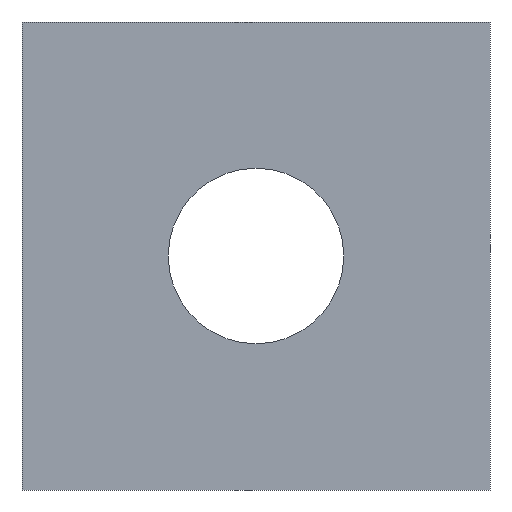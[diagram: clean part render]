
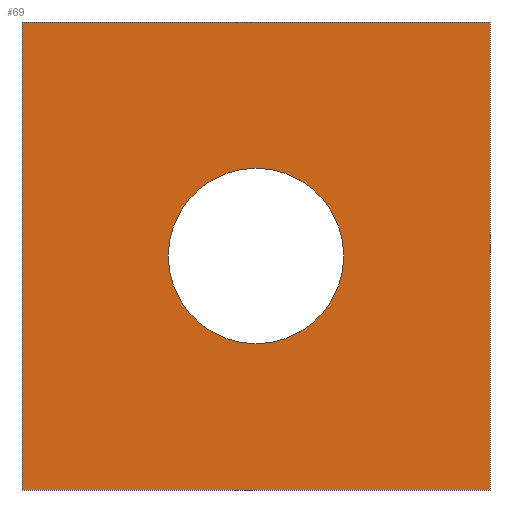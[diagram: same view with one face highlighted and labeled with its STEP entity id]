
A CAD part, front view. The second image highlights one B-rep face of the part: STEP entity #69.
In plain terms, the highlighted planar face has unit normal (0, -1, 0).
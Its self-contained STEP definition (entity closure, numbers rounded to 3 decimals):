
#2 = AXIS2_PLACEMENT_3D ( 'NONE', #265, #155, #267 ) ;
#7 = AXIS2_PLACEMENT_3D ( 'NONE', #31, #93, #182 ) ;
#12 = CARTESIAN_POINT ( 'NONE',  ( 122., 0., 122. ) ) ;
#16 = CARTESIAN_POINT ( 'NONE',  ( 122., 0., 122. ) ) ;
#18 = LINE ( 'NONE', #60, #100 ) ;
#27 = EDGE_CURVE ( 'NONE', #63, #225, #189, .T. ) ;
#29 = LINE ( 'NONE', #16, #87 ) ;
#31 = CARTESIAN_POINT ( 'NONE',  ( 0., 0., 0. ) ) ;
#39 = VERTEX_POINT ( 'NONE', #227 ) ;
#45 = FACE_BOUND ( 'NONE', #219, .T. ) ;
#60 = CARTESIAN_POINT ( 'NONE',  ( -122., 0., 122. ) ) ;
#61 = DIRECTION ( 'NONE',  ( 0., 0., 1. ) ) ;
#63 = VERTEX_POINT ( 'NONE', #202 ) ;
#66 = CIRCLE ( 'NONE', #246, 45.75 ) ;
#69 = ADVANCED_FACE ( 'NONE', ( #222, #45 ), #270, .T. ) ;
#71 = VERTEX_POINT ( 'NONE', #12 ) ;
#74 = ORIENTED_EDGE ( 'NONE', *, *, #137, .F. ) ;
#79 = CARTESIAN_POINT ( 'NONE',  ( 0., 0., 0. ) ) ;
#80 = CARTESIAN_POINT ( 'NONE',  ( -122., 0., -122. ) ) ;
#87 = VECTOR ( 'NONE', #253, 1000. ) ;
#93 = DIRECTION ( 'NONE',  ( 0., 1., 0. ) ) ;
#95 = DIRECTION ( 'NONE',  ( 0., 1., 0. ) ) ;
#100 = VECTOR ( 'NONE', #209, 1000. ) ;
#103 = LINE ( 'NONE', #119, #247 ) ;
#109 = EDGE_CURVE ( 'NONE', #248, #39, #18, .T. ) ;
#119 = CARTESIAN_POINT ( 'NONE',  ( -122., 0., 122. ) ) ;
#121 = EDGE_CURVE ( 'NONE', #39, #71, #103, .T. ) ;
#137 = EDGE_CURVE ( 'NONE', #71, #231, #29, .T. ) ;
#142 = VECTOR ( 'NONE', #254, 1000. ) ;
#155 = DIRECTION ( 'NONE',  ( 0., -1., 0. ) ) ;
#159 = ORIENTED_EDGE ( 'NONE', *, *, #109, .F. ) ;
#165 = ORIENTED_EDGE ( 'NONE', *, *, #201, .T. ) ;
#181 = EDGE_LOOP ( 'NONE', ( #74, #200, #159, #220 ) ) ;
#182 = DIRECTION ( 'NONE',  ( 0., 0., 1. ) ) ;
#189 = CIRCLE ( 'NONE', #7, 45.75 ) ;
#200 = ORIENTED_EDGE ( 'NONE', *, *, #121, .F. ) ;
#201 = EDGE_CURVE ( 'NONE', #225, #63, #66, .T. ) ;
#202 = CARTESIAN_POINT ( 'NONE',  ( 0., 0., -45.75 ) ) ;
#207 = ORIENTED_EDGE ( 'NONE', *, *, #27, .T. ) ;
#209 = DIRECTION ( 'NONE',  ( 0., 0., 1. ) ) ;
#216 = LINE ( 'NONE', #256, #142 ) ;
#219 = EDGE_LOOP ( 'NONE', ( #207, #165 ) ) ;
#220 = ORIENTED_EDGE ( 'NONE', *, *, #237, .F. ) ;
#222 = FACE_OUTER_BOUND ( 'NONE', #181, .T. ) ;
#225 = VERTEX_POINT ( 'NONE', #274 ) ;
#227 = CARTESIAN_POINT ( 'NONE',  ( -122., 0., 122. ) ) ;
#231 = VERTEX_POINT ( 'NONE', #255 ) ;
#232 = DIRECTION ( 'NONE',  ( 1., 0., 0. ) ) ;
#237 = EDGE_CURVE ( 'NONE', #231, #248, #216, .T. ) ;
#246 = AXIS2_PLACEMENT_3D ( 'NONE', #79, #95, #61 ) ;
#247 = VECTOR ( 'NONE', #232, 1000. ) ;
#248 = VERTEX_POINT ( 'NONE', #80 ) ;
#253 = DIRECTION ( 'NONE',  ( 0., 0., -1. ) ) ;
#254 = DIRECTION ( 'NONE',  ( -1., 0., 0. ) ) ;
#255 = CARTESIAN_POINT ( 'NONE',  ( 122., 0., -122. ) ) ;
#256 = CARTESIAN_POINT ( 'NONE',  ( -122., 0., -122. ) ) ;
#265 = CARTESIAN_POINT ( 'NONE',  ( 0., 0., 0. ) ) ;
#267 = DIRECTION ( 'NONE',  ( 0., 0., -1. ) ) ;
#270 = PLANE ( 'NONE',  #2 ) ;
#274 = CARTESIAN_POINT ( 'NONE',  ( 0., 0., 45.75 ) ) ;
